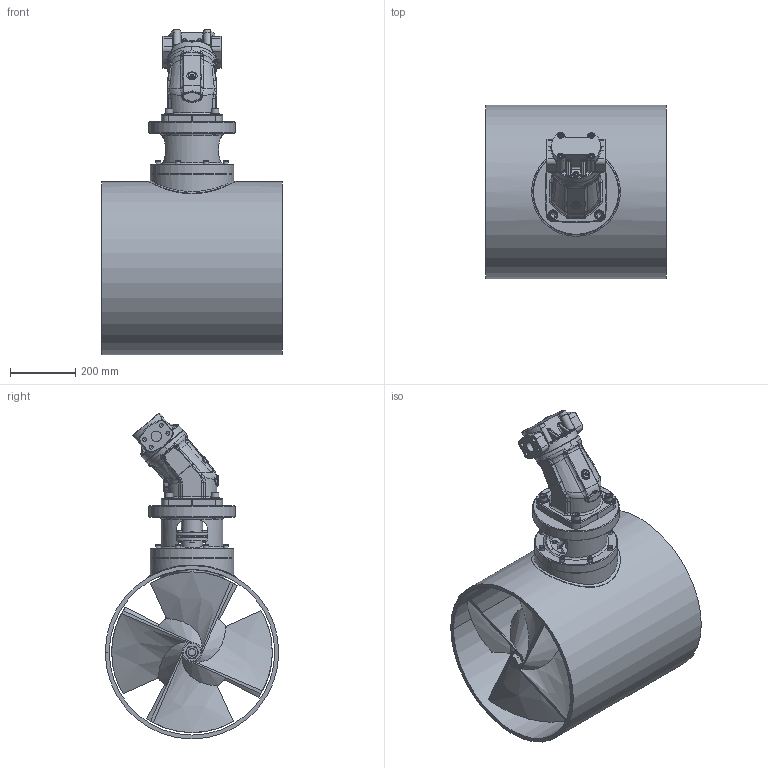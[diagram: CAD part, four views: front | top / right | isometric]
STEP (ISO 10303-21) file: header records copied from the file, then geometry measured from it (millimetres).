
FILE_DESCRIPTION(/* description */ (''),/* implementation_level */ '2;1');
FILE_NAME(/* name */ 'Q:\THRUSTERS\THRUSTER SALES & SUPPORT DOCS\THRUSTER Sales\H-T\H-0500-T\H-0500-T.stp',/* time_stamp */ '2020-03-04T15:37:13+00:00',/* author */ ('Jordan.Griffith'),/* organization */ (''),/* preprocessor_version */ 'ST-DEVELOPER v17',/* originating_system */ 'Autodesk Inventor 2019',/* authorisation */ '');
FILE_SCHEMA (('AUTOMOTIVE_DESIGN { 1 0 10303 214 3 1 1 }'));
Products named in the file (1): H-0500-T_Shrinkwrap_1
Bounding box: 555 x 532 x 999.57 mm (x, y, z)
Volume: 35908037.2 mm3; surface area: 5072535.6 mm2
Topology: 61 solids, 61 shells, 2727 faces, 7182 edges, 4693 vertices
Faces by surface type: cylinder 1056, plane 698, bspline 427, cone 316, torus 196, sphere 34
Full cylindrical faces by diameter (mm): 4 x2, 4.2 x10, 5 x4, 5.5 x8, 6.8 x9, 8 x18, 8.5 x52, 10 x12, 10.5 x56, 10.8 x8, 12 x14, 13 x6, 14 x4, 14.5 x1, 15 x1, 16 x23, 16.5 x17, 17 x13, 17.5 x16, 18 x6, 18.25 x2, 19 x12, 20 x6, 21 x6, 22 x2, 22.5 x2, 23.9 x1, 24 x6, 30 x4, 32 x4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
Entity records: 130434 total; most frequent: CARTESIAN_POINT 61200, ORIENTED_EDGE 14130, DIRECTION 13917, EDGE_CURVE 7065, AXIS2_PLACEMENT_3D 5921, VERTEX_POINT 4691, CIRCLE 3570, EDGE_LOOP 3248
